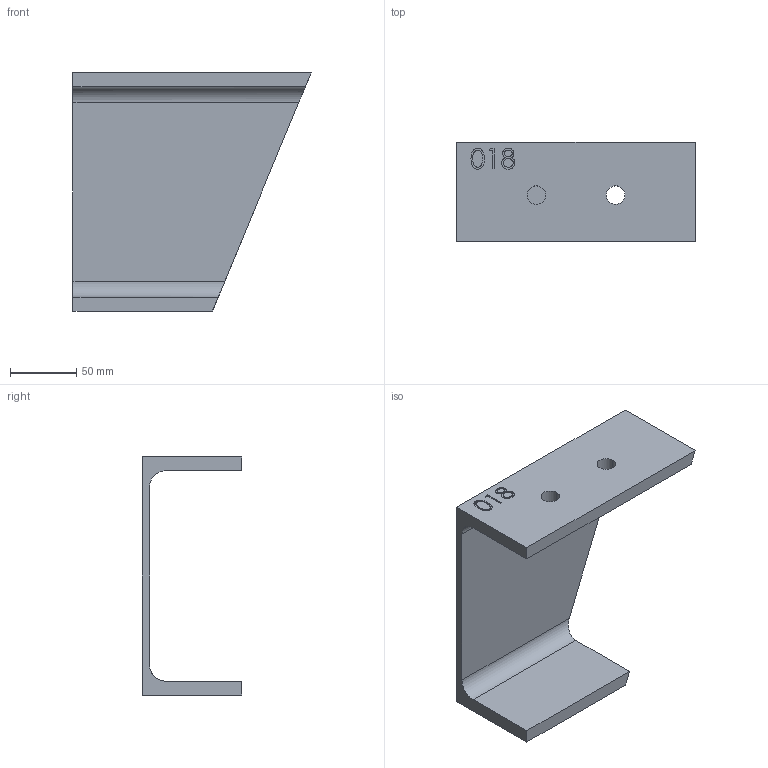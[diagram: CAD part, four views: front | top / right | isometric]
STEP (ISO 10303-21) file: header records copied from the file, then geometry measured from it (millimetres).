
FILE_DESCRIPTION (( 'STEP AP214' ), '1' );
FILE_NAME ('CCJ029-REP.018 - MONTANT ESCALIER INFERIEUR-PLANCHER.STEP', '2024-01-10T14:20:06', ( '' ), ( '' ), 'SwSTEP 2.0', 'SolidWorks 2021', '' );
FILE_SCHEMA (( 'AUTOMOTIVE_DESIGN' ));
Length unit declared in the file: millimetre
Products named in the file (1): CCJ029-REP.018 - MONTANT ESCALIER INFERIEUR-PLANCHER
Bounding box: 180 x 75 x 180 mm (x, y, z)
Volume: 355113.2 mm3; surface area: 96791.9 mm2
Topology: 1 solids, 1 shells, 54 faces, 138 edges, 92 vertices
Faces by surface type: bspline 26, plane 22, cylinder 6
Entity records: 3306 total; most frequent: CARTESIAN_POINT 2125, ORIENTED_EDGE 276, DIRECTION 152, EDGE_CURVE 138, VERTEX_POINT 92, LINE 74, VECTOR 74, EDGE_LOOP 64
